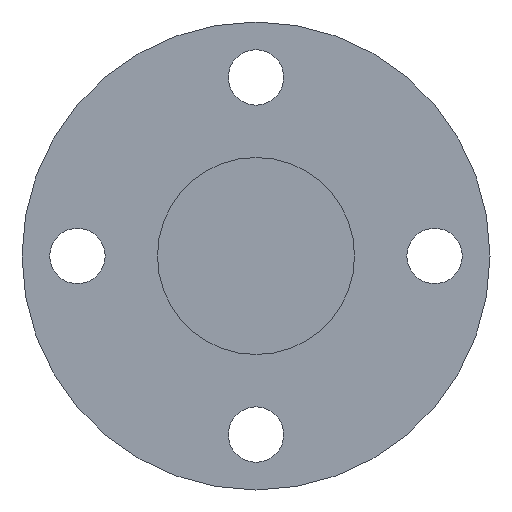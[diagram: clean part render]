
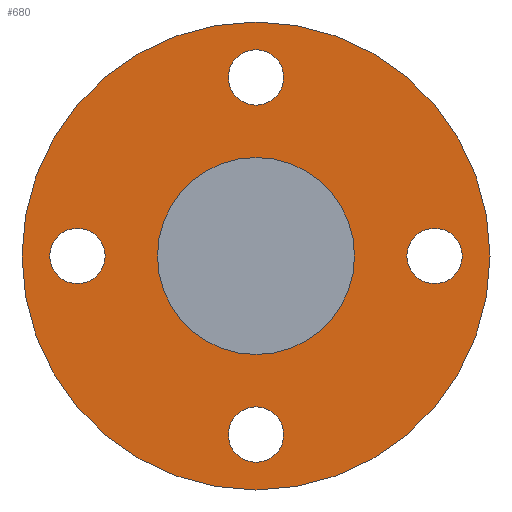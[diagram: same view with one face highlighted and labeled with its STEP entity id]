
A CAD part, left-side view. The second image highlights one B-rep face of the part: STEP entity #680.
In plain terms, the highlighted planar face has unit normal (-1, 0, 0).
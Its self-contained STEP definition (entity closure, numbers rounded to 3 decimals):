
#569=CARTESIAN_POINT('',(120.0,29.,-4.5));
#570=VERTEX_POINT('',#569);
#571=CARTESIAN_POINT('',(120.0,29.,0.));
#572=DIRECTION('',(1.0,0.0,0.0));
#573=DIRECTION('',(0.0,0.0,-1.0));
#574=AXIS2_PLACEMENT_3D('',#571,#572,#573);
#575=CIRCLE('',#574,4.5);
#576=EDGE_CURVE('',#570,#570,#575,.T.);
#589=CARTESIAN_POINT('',(120.0,-4.5,-29.));
#590=VERTEX_POINT('',#589);
#591=CARTESIAN_POINT('',(120.0,0.,-29.));
#592=DIRECTION('',(1.0,0.0,0.0));
#593=DIRECTION('',(0.0,-1.0,0.0));
#594=AXIS2_PLACEMENT_3D('',#591,#592,#593);
#595=CIRCLE('',#594,4.5);
#596=EDGE_CURVE('',#590,#590,#595,.T.);
#609=CARTESIAN_POINT('',(120.0,-29.,4.5));
#610=VERTEX_POINT('',#609);
#611=CARTESIAN_POINT('',(120.0,-29.,0.));
#612=DIRECTION('',(1.0,0.0,0.0));
#613=DIRECTION('',(0.0,0.0,1.0));
#614=AXIS2_PLACEMENT_3D('',#611,#612,#613);
#615=CIRCLE('',#614,4.5);
#616=EDGE_CURVE('',#610,#610,#615,.T.);
#629=CARTESIAN_POINT('',(120.0,4.5,29.));
#630=VERTEX_POINT('',#629);
#631=CARTESIAN_POINT('',(120.0,0.0,29.));
#632=DIRECTION('',(1.0,0.0,0.0));
#633=DIRECTION('',(0.0,1.0,0.0));
#634=AXIS2_PLACEMENT_3D('',#631,#632,#633);
#635=CIRCLE('',#634,4.5);
#636=EDGE_CURVE('',#630,#630,#635,.T.);
#641=CARTESIAN_POINT('',(120.0,0.0,27.));
#642=DIRECTION('',(-1.0,0.0,0.0));
#643=DIRECTION('',(0.0,0.0,1.0));
#644=AXIS2_PLACEMENT_3D('',#641,#642,#643);
#645=PLANE('',#644);
#646=CARTESIAN_POINT('',(120.0,0.0,38.));
#647=VERTEX_POINT('',#646);
#648=CARTESIAN_POINT('',(120.0,0.0,0.0));
#649=DIRECTION('',(-1.0,0.0,0.0));
#650=DIRECTION('',(0.0,0.0,1.0));
#651=AXIS2_PLACEMENT_3D('',#648,#649,#650);
#652=CIRCLE('',#651,38.);
#653=EDGE_CURVE('',#647,#647,#652,.T.);
#654=ORIENTED_EDGE('',*,*,#653,.T.);
#655=EDGE_LOOP('',(#654));
#656=FACE_OUTER_BOUND('',#655,.T.);
#657=ORIENTED_EDGE('',*,*,#576,.T.);
#658=EDGE_LOOP('',(#657));
#659=FACE_BOUND('',#658,.T.);
#660=ORIENTED_EDGE('',*,*,#596,.T.);
#661=EDGE_LOOP('',(#660));
#662=FACE_BOUND('',#661,.T.);
#663=ORIENTED_EDGE('',*,*,#616,.T.);
#664=EDGE_LOOP('',(#663));
#665=FACE_BOUND('',#664,.T.);
#666=ORIENTED_EDGE('',*,*,#636,.T.);
#667=EDGE_LOOP('',(#666));
#668=FACE_BOUND('',#667,.T.);
#669=CARTESIAN_POINT('',(120.0,0.0,16.));
#670=VERTEX_POINT('',#669);
#671=CARTESIAN_POINT('',(120.0,0.0,0.0));
#672=DIRECTION('',(-1.0,0.0,0.0));
#673=DIRECTION('',(0.0,0.0,1.0));
#674=AXIS2_PLACEMENT_3D('',#671,#672,#673);
#675=CIRCLE('',#674,16.);
#676=EDGE_CURVE('',#670,#670,#675,.T.);
#677=ORIENTED_EDGE('',*,*,#676,.F.);
#678=EDGE_LOOP('',(#677));
#679=FACE_BOUND('',#678,.T.);
#680=ADVANCED_FACE('',(#656,#659,#662,#665,#668,#679),#645,.T.);
